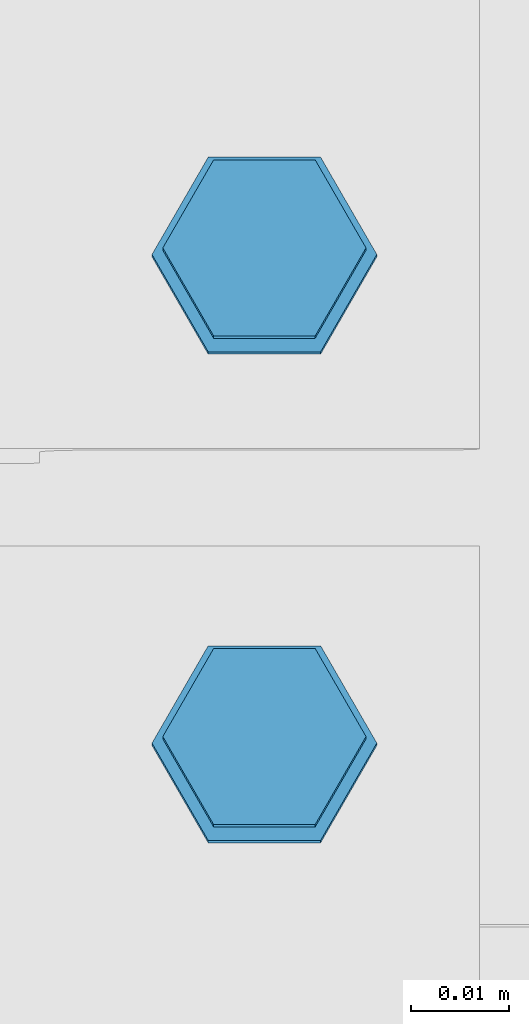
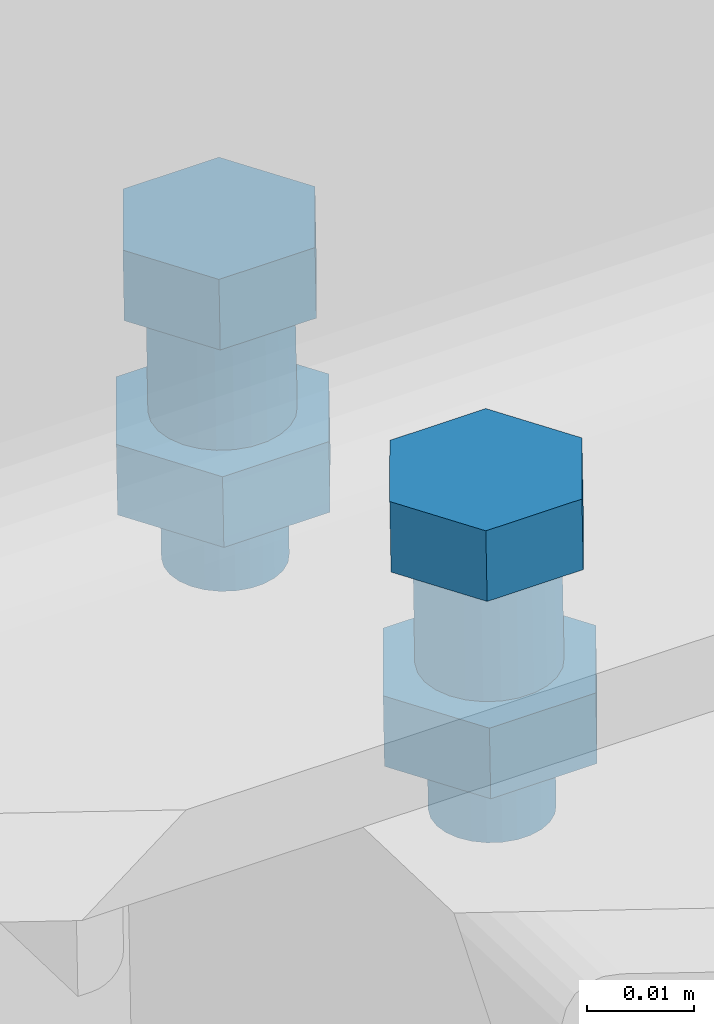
# One storey, part 236 of 362: 2 mechanical fasteners.
"""IFC2X3 building model written with IfcOpenShell, lengths in millimetres."""

import ifcopenshell
import ifcopenshell.guid

model = None  # the IFC model being written
_history = None  # IfcOwnerHistory: only IFC2X3 demands one
_inside = {}  # id of a spatial element -> (the spatial element, [elements in it])
_under = {}  # id of a project, library or spatial element -> (it, [spatial elements below it])
_declared = {}  # id of a project -> (the project, [libraries it declares])
_typed = {}  # id of a type object -> (the type object, [elements of that type])
_made_of = {}  # id of a material, layer set ... -> (it, [elements and type objects made of it])


def new_model(schema):
    """Start an empty IFC model of exactly this schema.

    Asked for "IFC4X3", IfcOpenShell would pick the latest addendum, in which some entities
    have other attributes; the version numbers below select the first issue.
    IFC2X3 requires an IfcOwnerHistory on every rooted entity: one is made here for all.
    """
    global model, _history
    if schema == "IFC4X3":
        model = ifcopenshell.file(schema_version=(4, 3, 0, 0))
    else:
        model = ifcopenshell.file(schema=schema)
    _inside.clear()
    _under.clear()
    _declared.clear()
    _typed.clear()
    _made_of.clear()
    _history = None
    if model.schema == "IFC2X3":
        org = make("IfcOrganization", Name="unknown")
        user = make(
            "IfcPersonAndOrganization",
            ThePerson=make("IfcPerson", FamilyName="unknown"),
            TheOrganization=org,
        )
        app = make(
            "IfcApplication",
            ApplicationDeveloper=org,
            Version="unknown",
            ApplicationFullName="unknown",
            ApplicationIdentifier="unknown",
        )
        _history = make(
            "IfcOwnerHistory",
            OwningUser=user,
            OwningApplication=app,
            ChangeAction="ADDED",
            CreationDate=0,
        )
    return model


def make(cls, **values):
    """One entity of the class cls with the attributes given. An attribute that is None is left unset."""
    return model.create_entity(
        cls, **{name: value for name, value in values.items() if value is not None}
    )


def rooted(cls, **values):
    """An entity with a GlobalId (a new one), such as an element, a storey or a relation."""
    return make(cls, GlobalId=ifcopenshell.guid.new(), OwnerHistory=_history, **values)


def si_unit(unit_type, name, prefix=None):
    """IfcSIUnit, for example si_unit("LENGTHUNIT", "METRE", prefix="MILLI")."""
    return make("IfcSIUnit", UnitType=unit_type, Prefix=prefix, Name=name)


def assignment(units):
    """IfcUnitAssignment: the units of a project."""
    return None if units is None else make("IfcUnitAssignment", Units=units)


def point(xyz):
    """IfcCartesianPoint."""
    return None if xyz is None else make("IfcCartesianPoint", Coordinates=xyz)


def direction(xyz):
    """IfcDirection."""
    return None if xyz is None else make("IfcDirection", DirectionRatios=xyz)


def frame(location, z_axis=None, x_axis=None):
    """IfcAxis2Placement3D, a coordinate frame: its origin and axes. An axis left out is left unset."""
    return make(
        "IfcAxis2Placement3D",
        Location=point(location),
        Axis=direction(z_axis),
        RefDirection=direction(x_axis),
    )


def frame_2d(location, x_axis=None):
    """IfcAxis2Placement2D, a coordinate frame in the plane: its origin and x axis."""
    return make(
        "IfcAxis2Placement2D", Location=point(location), RefDirection=direction(x_axis)
    )


def origin_with_axes():
    """The frame at (0, 0, 0) with the z axis (0, 0, 1) and the x axis (1, 0, 0) written out."""
    return frame((0.0, 0.0, 0.0), z_axis=(0.0, 0.0, 1.0), x_axis=(1.0, 0.0, 0.0))


def origin_2d_with_axis():
    """The frame at (0, 0) in the plane with the x axis (1, 0) written out."""
    return frame_2d((0.0, 0.0), x_axis=(1.0, 0.0))


def place(relative_to, where):
    """IfcLocalPlacement: puts the frame where relative to a parent placement (None: the world)."""
    return make(
        "IfcLocalPlacement", PlacementRelTo=relative_to, RelativePlacement=where
    )


def context(
    kind, dimensions, precision=None, world=None, true_north=None, identifier=None
):
    """IfcGeometricRepresentationContext, for example the 3D "Model" context."""
    return make(
        "IfcGeometricRepresentationContext",
        ContextIdentifier=identifier,
        ContextType=kind,
        CoordinateSpaceDimension=dimensions,
        Precision=precision,
        WorldCoordinateSystem=world,
        TrueNorth=true_north,
    )


def subcontext(parent, identifier, kind, view, scale=None):
    """IfcGeometricRepresentationSubContext, for example "Body" below "Model"."""
    return make(
        "IfcGeometricRepresentationSubContext",
        ContextIdentifier=identifier,
        ContextType=kind,
        ParentContext=parent,
        TargetScale=scale,
        TargetView=view,
    )


def project(units=None, contexts=None):
    """IfcProject with its units and contexts."""
    return rooted(
        "IfcProject",
        Name="project",
        RepresentationContexts=contexts,
        UnitsInContext=assignment(units),
    )


def spatial(cls, under=None, at=None, **own):
    """A site, building, storey or space (cls), placed at a placement, below another one or the project."""
    s = rooted(cls, ObjectPlacement=at, **own)
    if under is not None:
        _under.setdefault(under.id(), (under, []))[1].append(s)
    return s


def polyline(points):
    """IfcPolyline through the points."""
    return make("IfcPolyline", Points=[point(p) for p in points])


def profile(cls, at=None, kind="AREA", **sizes):
    """A parametric profile (cls). Its sizes go by their IFC names, for example OverallWidth=200.0."""
    return make(cls, ProfileType=kind, Position=at, **sizes)


def circle(**sizes):
    """IfcCircleProfileDef."""
    return profile("IfcCircleProfileDef", **sizes)


def outline(outer, holes=None, kind="AREA"):
    """IfcArbitraryClosedProfileDef: a profile drawn as a closed curve; with holes, ...WithVoids."""
    if holes is None:
        return make("IfcArbitraryClosedProfileDef", ProfileType=kind, OuterCurve=outer)
    return make(
        "IfcArbitraryProfileDefWithVoids",
        ProfileType=kind,
        OuterCurve=outer,
        InnerCurves=holes,
    )


def extrude(swept, where, along, depth):
    """IfcExtrudedAreaSolid: the profile swept, set in the frame where, extruded along a direction by depth."""
    return make(
        "IfcExtrudedAreaSolid",
        SweptArea=swept,
        Position=where,
        ExtrudedDirection=direction(along),
        Depth=depth,
    )


def shape(context_of_items, identifier, shape_type, items):
    """IfcShapeRepresentation: the items that make up one representation, for example the "Body"."""
    return make(
        "IfcShapeRepresentation",
        ContextOfItems=context_of_items,
        RepresentationIdentifier=identifier,
        RepresentationType=shape_type,
        Items=items,
    )


def source(mapping_origin, context_of_items, identifier, shape_type, items):
    """IfcRepresentationMap: a shape defined once, which mapped items show again and again."""
    return make(
        "IfcRepresentationMap",
        MappingOrigin=mapping_origin,
        MappedRepresentation=shape(context_of_items, identifier, shape_type, items),
    )


def transform(
    local_origin,
    x_axis=None,
    y_axis=None,
    z_axis=None,
    scale=None,
    scale2=None,
    scale3=None,
    uniform=True,
):
    """IfcCartesianTransformationOperator3D, or its non-uniform kind. x_axis, y_axis, z_axis: its Axis1, 2, 3."""
    if uniform:
        return make(
            "IfcCartesianTransformationOperator3D",
            Axis1=direction(x_axis),
            Axis2=direction(y_axis),
            LocalOrigin=point(local_origin),
            Scale=scale,
            Axis3=direction(z_axis),
        )
    return make(
        "IfcCartesianTransformationOperator3DnonUniform",
        Axis1=direction(x_axis),
        Axis2=direction(y_axis),
        LocalOrigin=point(local_origin),
        Scale=scale,
        Axis3=direction(z_axis),
        Scale2=scale2,
        Scale3=scale3,
    )


def mapped(mapping_source, mapping_target):
    """IfcMappedItem: shows the shape of a source again, moved by a transform."""
    return make(
        "IfcMappedItem", MappingSource=mapping_source, MappingTarget=mapping_target
    )


def material(Name=None, Category=None):
    """IfcMaterial."""
    return make("IfcMaterial", Name=Name, Category=Category)


def made_of(thing, what):
    """Note that an element or type object is made of a material, layer set ...; save() writes the relation."""
    if what is not None:
        _made_of.setdefault(what.id(), (what, []))[1].append(thing)
    return thing


def type_object(cls, material=None, **own):
    """A type object (cls), such as IfcWallType, which elements share."""
    return made_of(rooted(cls, **own), material)


def element(
    cls,
    number,
    at=None,
    inside=None,
    cuts=None,
    type_object=None,
    material=None,
    context=None,
    identifier="Body",
    shape_type=None,
    held_by="IfcProductDefinitionShape",
    body=None,
    shapes=None,
    **own,
):
    """One element of the class cls, such as IfcWall. Its Tag is "e" and its number.

    at: its placement. inside: the storey or other place that contains it. cuts: it is an
    opening in that element (IfcRelVoidsElement). A single representation is given by context,
    identifier, shape_type and body (its items); several are given by shapes. held_by: the class
    of the entity that holds the representations. save() writes the other relations.
    """
    e = rooted(cls, Tag="e%d" % number, ObjectPlacement=at, **own)
    if body is not None:
        shapes = [shape(context, identifier, shape_type, body)]
    if shapes is not None:
        e.Representation = make(held_by, Representations=shapes)
    if inside is not None:
        _inside.setdefault(inside.id(), (inside, []))[1].append(e)
    if cuts is not None:
        rooted(
            "IfcRelVoidsElement", RelatingBuildingElement=cuts, RelatedOpeningElement=e
        )
    if type_object is not None:
        _typed.setdefault(type_object.id(), (type_object, []))[1].append(e)
    return made_of(e, material)


def aggregate(whole, parts):
    """IfcRelAggregates: a whole, such as a stair, and the parts it consists of."""
    return rooted("IfcRelAggregates", RelatingObject=whole, RelatedObjects=parts)


def save(model, path):
    """Write the relations noted so far, then the file.

    IfcRelAggregates (storeys below a building ...), IfcRelContainedInSpatialStructure (elements
    in a storey), IfcRelDefinesByType, IfcRelAssociatesMaterial and IfcRelDeclares: one each for
    every whole, place, type object, material and project.
    """
    for whole, parts in _under.values():
        aggregate(whole, parts)
    for where, things in _inside.values():
        rooted(
            "IfcRelContainedInSpatialStructure",
            RelatedElements=things,
            RelatingStructure=where,
        )
    for kind, things in _typed.values():
        rooted("IfcRelDefinesByType", RelatedObjects=things, RelatingType=kind)
    for what, things in _made_of.values():
        rooted("IfcRelAssociatesMaterial", RelatedObjects=things, RelatingMaterial=what)
    for by, libraries in _declared.values():
        rooted("IfcRelDeclares", RelatingContext=by, RelatedDefinitions=libraries)
    model.write(path)


model = new_model("IFC2X3")

# Units and contexts
model_context = context("Model", 3, precision=1e-05, world=origin_with_axes())
body_context = subcontext(model_context, "Body", "Model", "MODEL_VIEW")
ifc_project = project(units=[si_unit("LENGTHUNIT", "METRE", prefix="MILLI"), si_unit("AREAUNIT", "SQUARE_METRE"), si_unit("VOLUMEUNIT", "CUBIC_METRE"), si_unit("MASSUNIT", "GRAM", prefix="KILO"), si_unit("TIMEUNIT", "SECOND"), si_unit("PLANEANGLEUNIT", "RADIAN"), si_unit("SOLIDANGLEUNIT", "STERADIAN"), si_unit("THERMODYNAMICTEMPERATUREUNIT", "DEGREE_CELSIUS"), si_unit("LUMINOUSINTENSITYUNIT", "LUMEN")], contexts=[model_context])

# Site, building, storey
site_placement = place(None, origin_with_axes())
site = spatial("IfcSite", under=ifc_project, at=site_placement, Name="Undefined", CompositionType="ELEMENT")
building_placement = place(site_placement, origin_with_axes())
building = spatial("IfcBuilding", under=site, at=building_placement, Name="Undefined", CompositionType="ELEMENT")
storey_placement = place(building_placement, origin_with_axes())
storey = spatial("IfcBuildingStorey", under=building, at=storey_placement, Name="Undefined", CompositionType="ELEMENT", Elevation=0.0)

# Mechanical fasteners
ifc_material = material(Name="8.8-SB-ZINGUE")
mechanical_fastener_type = type_object("IfcMechanicalFastenerType", Name="Bolt assembly")
shared_shape = source(origin_with_axes(), body_context, "Body", "SweptSolid", [
    extrude(circle(Radius=7.0, at=origin_2d_with_axis()), frame((0.0, -8.39654616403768, 0.0), z_axis=(0.0, 1.0, 0.0), x_axis=(1.0, 0.0, 0.0)), (0.0, 0.0, 1.0), 8.5),
    extrude(circle(Radius=7.0, at=origin_2d_with_axis()), frame((0.0, -0.100011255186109, 0.0), z_axis=(0.0, 1.0, 0.0), x_axis=(1.0, 0.0, 0.0)), (0.0, 0.0, 1.0), 5.1),
    extrude(outline(polyline([(10.39230484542, 0.0), (5.19615242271, 9.00000000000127), (-5.19615242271, 9.00000000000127), (-10.39230484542, 0.0), (-5.19615242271, -9.00000000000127), (5.19615242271, -9.00000000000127), (10.39230484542, 0.0)])), frame((0.0, -16.4165461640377, 0.0), z_axis=(0.0, 1.0, 0.0), x_axis=(1.0, 0.0, 0.0)), (0.0, 0.0, 1.0), 7.92),
    extrude(circle(Radius=6.0, at=origin_2d_with_axis()), frame((0.0, -8.49654616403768, 0.0), z_axis=(0.0, 1.0, 0.0), x_axis=(1.0, 0.0, 0.0)), (0.0, 0.0, 1.0), 30.0),
    extrude(outline(polyline([(11.5008173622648, 0.0), (5.7504086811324, 9.96000000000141), (-5.7504086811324, 9.96000000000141), (-11.5008173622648, 0.0), (-5.7504086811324, -9.96000000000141), (5.7504086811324, -9.96000000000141), (11.5008173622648, 0.0)])), frame((0.0, 5.0, 0.0), z_axis=(0.0, 1.0, 0.0), x_axis=(1.0, 0.0, 0.0)), (0.0, 0.0, 1.0), 7.92),
])
for number, where, z_axis, x_axis, name in (
    (1, (6330.00001266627, 7621.85063594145, 7610.37835678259), (0.0, -0.999506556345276, 0.031410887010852), (-1.0, 0.0, 0.0), "Bolt assembly"),
    (2, (6330.00001266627, 7571.87132294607, 7611.94904293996), (0.0, -0.999506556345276, 0.031410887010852), (-1.0, 0.0, 0.0), "Bolt assembly"),
):
    element("IfcMechanicalFastener", number, at=place(storey_placement, frame(where, z_axis=z_axis, x_axis=x_axis)), inside=storey, type_object=mechanical_fastener_type, material=ifc_material, Name=name, NominalDiameter=12.0, NominalLength=30.0, context=body_context, shape_type="MappedRepresentation", body=[
        mapped(shared_shape, transform((0.0, 0.0, 0.0))),
    ])

save(model, "model.ifc")
